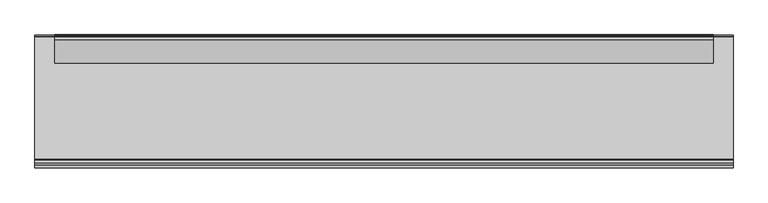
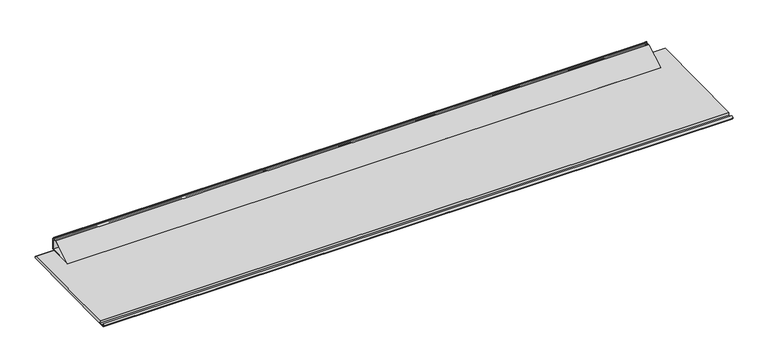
"""IFC4 building model written with IfcOpenShell, lengths in millimetres: proxy geometry, 営_付庇_窓 : 付庇."""

from ifc_helpers import new_model, si_unit, point, frame, frame_2d, origin, place, context, project, spatial, polyline, circle_curve, trimmed, segment, composite_curve, outline, extrude, source, transform, mapped, element, save


def generic_models_706210b3(model_context):
    return source(origin(), model_context, "Body", "SweptSolid", [
        extrude(outline(composite_curve([segment(polyline([(-37.6140814, 2819.9351524), (-11.3461322, 2819.9351524), (-11.3461322, 2828.9351524), (-10.3461322, 2828.9351524), (-10.3461322, 2818.9351524), (-1.8461322, 2818.9351524)]), True, "CONTINUOUS"), segment(trimmed(circle_curve(frame_2d((-1.8461322, 2817.4351524)), 1.5), [point((-1.8461322, 2818.9351524))], [point((-0.3461322, 2817.4351524))], False, "CARTESIAN"), True, "CONTINUOUS"), segment(polyline([(-0.3461322, 2817.4351524), (-0.3461322, 2752.0085908), (-1.8327263, 2752.0085908), (-1.8327263, 2735.1294809)]), True, "CONTINUOUS"), segment(trimmed(circle_curve(frame_2d((-5.028506, 2735.1294809)), 3.1957797), [point((-1.8327263, 2735.1294809))], [point((-5.028506, 2731.9337012))], False, "CARTESIAN"), True, "CONTINUOUS"), segment(polyline([(-5.028506, 2731.9337012), (-175.0057255, 2730.2313285)]), True, "CONTINUOUS"), segment(trimmed(circle_curve(frame_2d((-171.8053303, 2730.2659194)), 3.2005822), [point((-175.0057255, 2730.2313285))], [point((-171.8055496, 2733.4665015))], False, "CARTESIAN"), True, "CONTINUOUS"), segment(polyline([(-171.8055496, 2733.4665015), (-5.0461322, 2735.1351524), (-5.0461322, 2817.4351524), (-25.3461322, 2817.4351524), (-25.3461322, 2818.9351524), (-37.3461322, 2818.9351524), (-190.9231912, 2730.267396), (-191.4231912, 2731.1334214), (-37.6140814, 2819.9351524)]), True, "CONTINUOUS")], self_intersect=False)), frame((-2235.0, 0.0, 0.0), z_axis=(1.0, 0.0, 0.0), x_axis=(0.0, 1.0, 0.0)), (0.0, 0.0, 1.0), 4470.0),
        extrude(outline(polyline([(-2.5882551, 2708.904574), (-840.0443021, 2700.5299735), (-840.1352979, 2709.6295042), (-847.1349905, 2709.5595114), (-847.1089918, 2706.959652), (-845.1090918, 2706.979651), (-845.0940922, 2705.479699), (-847.0939926, 2705.4596999), (-847.0439951, 2700.459977), (-893.0414445, 2700.0), (-893.1674389, 2712.5993704), (-905.0, 2712.4810448), (-905.0, 2714.1463745), (-890.2697794, 2722.848415), (-890.071593, 2703.0298485), (-870.1165891, 2703.2293992), (-850.0738436, 2703.4298285), (-850.2698338, 2723.0286706), (-17.8134939, 2731.3533096), (-17.7134989, 2721.3539004), (-10.9138389, 2721.4218976), (-2.7142489, 2721.5038939), (-2.5882551, 2708.904574)])), frame((-2370.0, 0.0, 0.0), z_axis=(1.0, 0.0, 0.0), x_axis=(0.0, 1.0, 0.0)), (0.0, 0.0, 1.0), 4740.0),
    ])


if __name__ == "__main__":
    model = new_model("IFC4")
    model_context = context("Model", 3, world=origin())
    ifc_project = project(units=[si_unit("LENGTHUNIT", "METRE", prefix="MILLI")], contexts=[model_context])
    site = spatial("IfcSite", under=ifc_project)
    building = spatial("IfcBuilding", under=site)
    placement = place(None, origin())
    generic_models_shape = generic_models_706210b3(model_context)
    element("IfcBuildingElementProxy", 1, Name="営_付庇_窓 : 付庇", ObjectType="営_付庇_窓 : 付庇", at=placement, inside=building, context=model_context, shape_type="MappedRepresentation", body=[
        mapped(generic_models_shape, transform((0.0, 0.0, 0.0), x_axis=(1.0, 0.0, 0.0), y_axis=(0.0, 1.0, 0.0), z_axis=(0.0, 0.0, 1.0))),
    ])
    save(model, "model.ifc")
